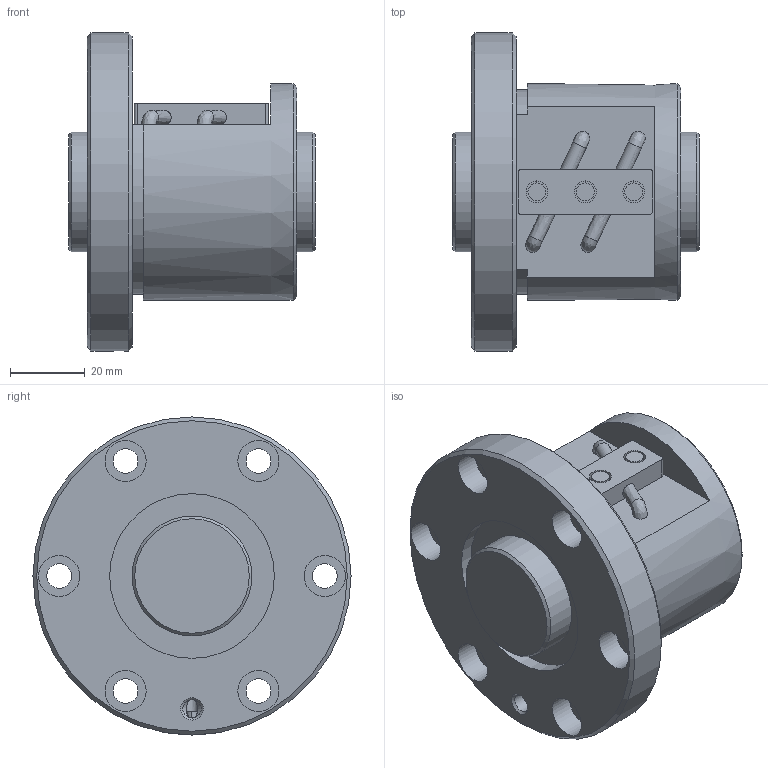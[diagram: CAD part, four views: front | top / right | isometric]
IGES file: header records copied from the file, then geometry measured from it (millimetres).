
Start section: Data from Parasolid IGES Translator 26.0.171, Copyright(c) 2006 Siemens PLM Software. All Rights Reserved.
Global section: file name: BNF3205V-5RRG1+66LC0_000_rev.igs; native system: By Siemens PLM Incorporated; preprocessor: XPlus GENERIC/IGES 26.0.171; author: Noname; organization: Noname; date: 20240806.073625; units: millimetre
Bounding box: 66 x 85 x 85 mm (x, y, z)
Surface area: 38568.3 mm2 (no closed solid volume)
Topology: 0 solids, 0 shells, 80 faces, 378 edges, 342 vertices
Faces by surface type: revolution 51, extrusion 29
